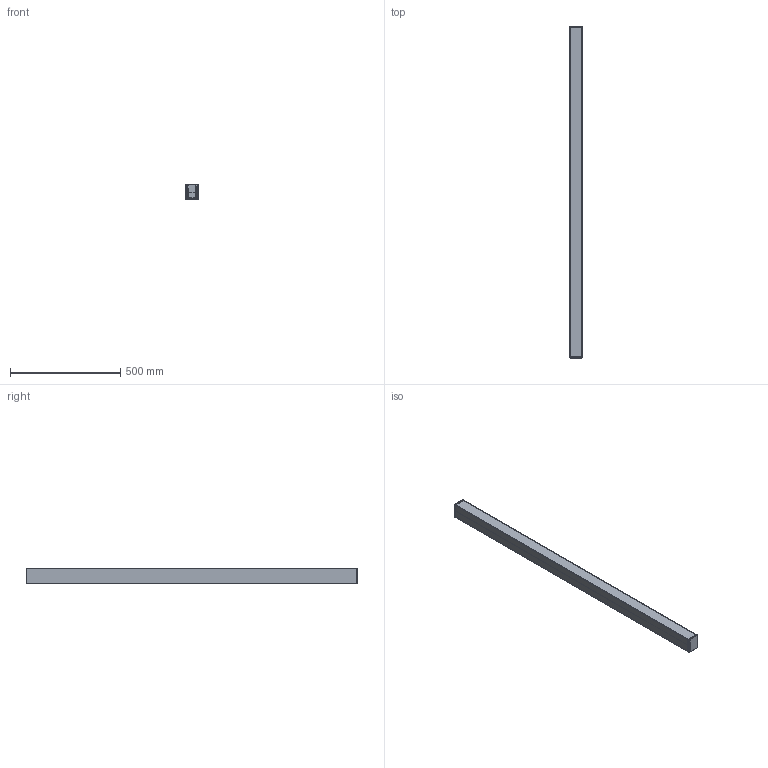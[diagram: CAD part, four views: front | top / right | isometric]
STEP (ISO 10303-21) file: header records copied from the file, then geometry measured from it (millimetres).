
FILE_DESCRIPTION((''),'2;1');
FILE_NAME('ASM0006_ASM','2025-12-14T20:43:41',('86186'),(''),'CREO PARAMETRIC BY PTC INC, 2019010','CREO PARAMETRIC BY PTC INC, 2019010','');
FILE_SCHEMA(('CONFIG_CONTROL_DESIGN'));
Length unit declared in the file: millimetre
Products named in the file (9): 00; 557011_19000; PRT0013; 557000; PRT0011; PRT0014; PRT0012; PRT0016; ASM0006_ASM
Assembly tree (11 placements, depth 2):
  ASM0006_ASM
    00
    557011_19000  x2
    PRT0013  x2
    557000  x2
    PRT0011
    PRT0014
    PRT0012
    PRT0016
Bounding box: 55.1 x 1508.85 x 70 mm (x, y, z)
Volume: 713836.5 mm3; surface area: 1403750.8 mm2
Topology: 12 solids, 16 shells, 2332 faces, 6022 edges, 3990 vertices
Faces by surface type: plane 1880, cylinder 416, cone 24, sphere 8, extrusion 4
Entity records: 62513 total; most frequent: CARTESIAN_POINT 11753, ORIENTED_EDGE 10558, DIRECTION 9836, EDGE_CURVE 5279, VECTOR 4566, LINE 4564, VERTEX_POINT 3507, AXIS2_PLACEMENT_3D 2635
